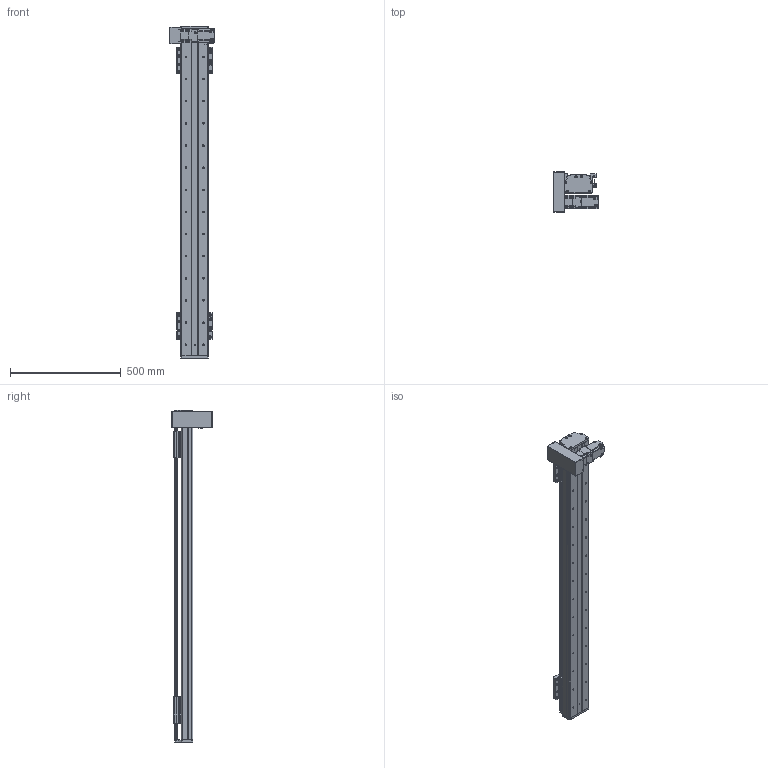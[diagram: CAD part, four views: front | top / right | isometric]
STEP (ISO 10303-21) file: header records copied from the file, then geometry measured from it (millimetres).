
FILE_DESCRIPTION(/* description */ (''),/* implementation_level */ '2;1');
FILE_NAME(/* name */ 'C:\Users\PC\Desktop\3D도면\STEP\DSB125-DL2G-W1200-R.stp',/* time_stamp */ '2018-06-21T14:51:52+09:00',/* author */ ('PC'),/* organization */ (''),/* preprocessor_version */ 'ST-DEVELOPER v16.5',/* originating_system */ 'Autodesk Inventor 2017',/* authorisation */ '');
FILE_SCHEMA (('AUTOMOTIVE_DESIGN { 1 0 10303 214 3 1 1 }'));
Length unit declared in the file: millimetre
Products named in the file (12): DSB125-L-300ST; DSR125-BASE(S-TYPE); DSR125-REAR COVER-R01(170203); DSR125-REAR COVER-R01(170203)_1; DSR125-UP COVER-R01(170203); hg-kr23_; ab0601-p0401200402; 13-BELT COVER; DSR126-SENSOR DOG; pm-y65_step; SENSOR BRACKET(EE-SX674A); DSR125-TABLE(MSA15X)
Assembly tree (16 placements, depth 2):
  DSB125-L-300ST
    DSR125-BASE(S-TYPE)
    DSR125-REAR COVER-R01(170203)
    DSR125-REAR COVER-R01(170203)_1
    DSR125-UP COVER-R01(170203)
    hg-kr23_
    ab0601-p0401200402
    13-BELT COVER
    DSR126-SENSOR DOG
    pm-y65_step  x3
    SENSOR BRACKET(EE-SX674A)  x3
    DSR125-TABLE(MSA15X)  x2
Bounding box: 202.1 x 182 x 1500 mm (x, y, z)
Volume: 5380499 mm3; surface area: 1549538 mm2
Topology: 17 solids, 22 shells, 1681 faces, 4551 edges, 3000 vertices
Faces by surface type: plane 908, cylinder 641, cone 120, sphere 8, torus 4
Full cylindrical faces by diameter (mm): 2.459 x20, 3.242 x16, 3.5 x6, 4 x1, 4.134 x16, 4.2 x4, 4.3 x1, 4.5 x50, 4.917 x20, 5 x27, 5.3 x1, 5.5 x4, 5.6 x8, 5.8 x4, 5.9 x8, 6 x4, 6.6 x22, 6.647 x30, 7.5 x32, 8.5 x8, 8.7 x1, 11 x22, 14 x1, 16 x2, 17 x1, 20 x1, 47 x1, 50 x3
Entity records: 35750 total; most frequent: CARTESIAN_POINT 6559, DIRECTION 6204, ORIENTED_EDGE 5518, EDGE_CURVE 2764, AXIS2_PLACEMENT_3D 2290, VERTEX_POINT 1973, EDGE_LOOP 1713, LINE 1624
